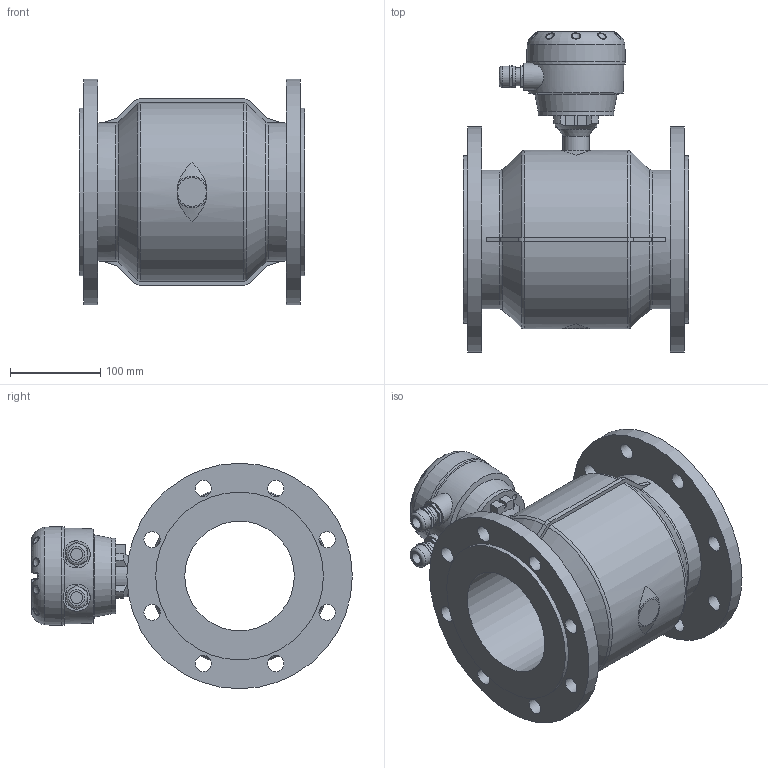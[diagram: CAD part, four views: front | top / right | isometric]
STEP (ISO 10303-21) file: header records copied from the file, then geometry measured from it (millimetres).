
FILE_DESCRIPTION (( 'STEP AP203' ), '1' );
FILE_NAME ('KROHNE_OPTIFLUX_2-4000W-WATERFLUX_3000F_DIN2633_DN125_PN16.STEP', '2011-04-26T11:24:15', ( '' ), ( '' ), 'SwSTEP 2.0', 'SolidWorks 2010', '' );
FILE_SCHEMA (( 'CONFIG_CONTROL_DESIGN' ));
Length unit declared in the file: millimetre
Products named in the file (1): KROHNE_OPTIFLUX_2-4000W-WATERFLUX_3000F_DIN2633_DN125_PN16
Bounding box: 250 x 355.49 x 250 mm (x, y, z)
Volume: 5255381.1 mm3; surface area: 504584.3 mm2
Topology: 14 solids, 14 shells, 391 faces, 976 edges, 634 vertices
Faces by surface type: plane 179, cylinder 102, bspline 53, torus 30, cone 14, sphere 13
Full cylindrical faces by diameter (mm): 4 x4, 6.6 x8, 13 x2, 18 x16, 20 x2, 23.5 x4, 29 x1, 30 x2, 84 x2, 109 x1, 121.5 x1, 153.8 x2, 186 x2, 250 x2
Entity records: 15828 total; most frequent: CARTESIAN_POINT 7089, ORIENTED_EDGE 1746, DIRECTION 1657, EDGE_CURVE 873, AXIS2_PLACEMENT_3D 615, VERTEX_POINT 607, EDGE_LOOP 548, FACE_OUTER_BOUND 457
